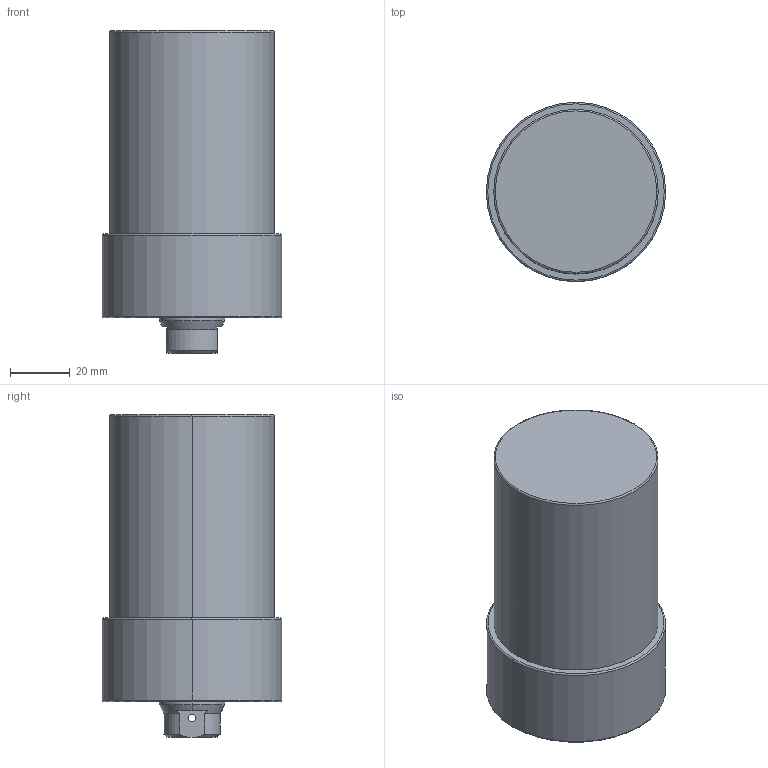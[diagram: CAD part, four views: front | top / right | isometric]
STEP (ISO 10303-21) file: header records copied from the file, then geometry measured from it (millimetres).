
FILE_DESCRIPTION (( 'STEP AP203' ), '1' );
FILE_NAME ('CLLU055-CB-055.STEP', '2017-05-12T11:23:33', ( '' ), ( '' ), 'SwSTEP 2.0', 'SolidWorks 2015', '' );
FILE_SCHEMA (( 'CONFIG_CONTROL_DESIGN' ));
Length unit declared in the file: millimetre
Products named in the file (1): CLLU055-CB-055
Bounding box: 60 x 60 x 108 mm (x, y, z)
Volume: 241015.2 mm3; surface area: 25120.7 mm2
Topology: 1 solids, 1 shells, 66 faces, 152 edges, 85 vertices
Faces by surface type: cylinder 26, cone 24, plane 10, torus 6
Entity records: 1971 total; most frequent: CARTESIAN_POINT 414, DIRECTION 340, ORIENTED_EDGE 284, AXIS2_PLACEMENT_3D 143, EDGE_CURVE 142, VERTEX_POINT 85, EDGE_LOOP 77, CIRCLE 76
